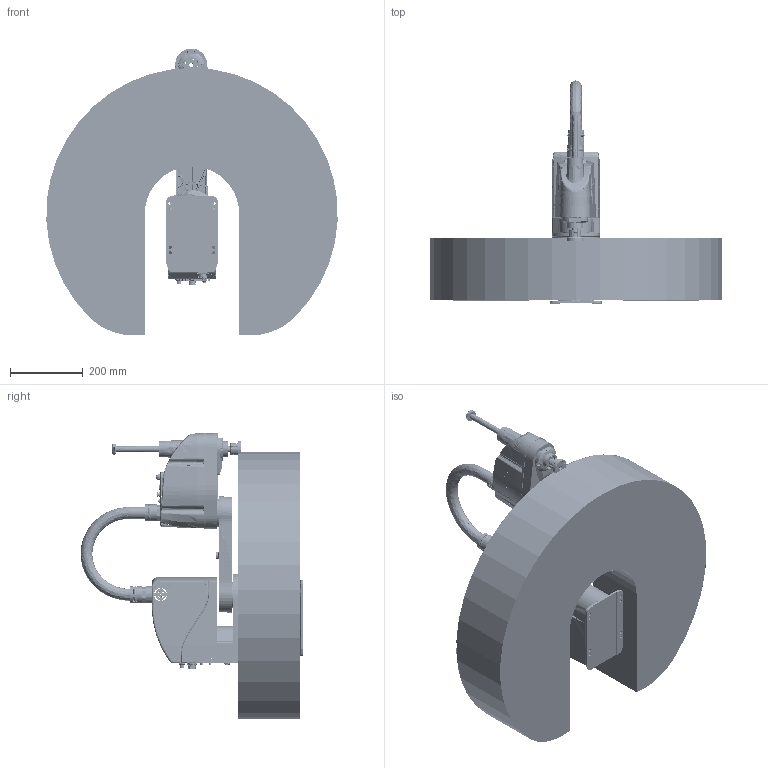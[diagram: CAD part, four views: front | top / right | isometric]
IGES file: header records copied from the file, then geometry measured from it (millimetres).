
Start section: SolidWorks IGES file using analytic representation for surfaces
Bounding box: 799.04 x 611.75 x 787.44 mm (x, y, z)
Surface area: 2284008 mm2 (no closed solid volume)
Topology: 0 solids, 0 shells, 3497 faces, 61525 edges, 61456 vertices
Faces by surface type: bspline 1879, revolution 1618
